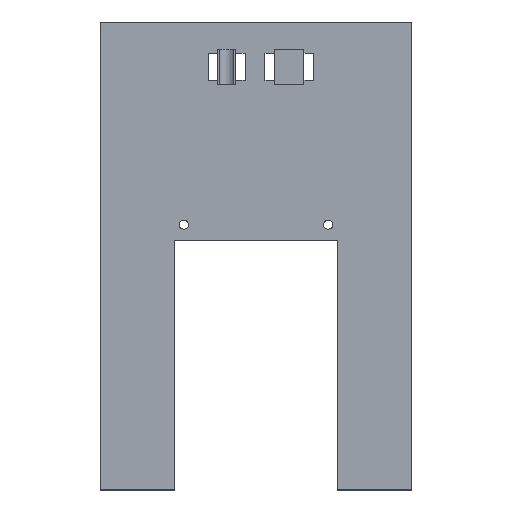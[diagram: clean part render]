
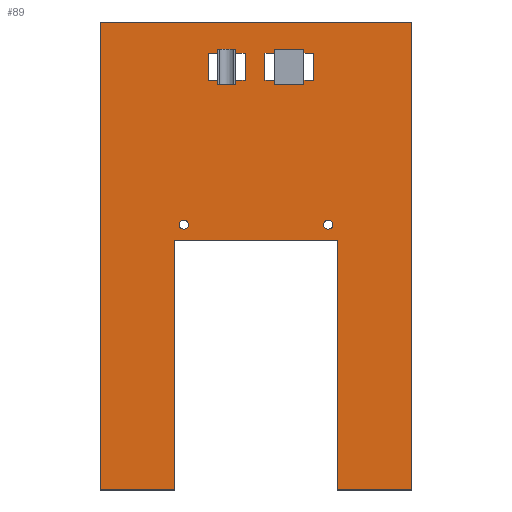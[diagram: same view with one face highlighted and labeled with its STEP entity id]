
A CAD part, top view. The second image highlights one B-rep face of the part: STEP entity #89.
In plain terms, the highlighted planar face has unit normal (0, 0, 1).
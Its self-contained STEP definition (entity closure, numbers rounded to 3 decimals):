
#21 = EDGE_CURVE('',#22,#24,#26,.T.);
#22 = VERTEX_POINT('',#23);
#23 = CARTESIAN_POINT('',(0.,0.,3.));
#24 = VERTEX_POINT('',#25);
#25 = CARTESIAN_POINT('',(0.,120.,3.));
#26 = LINE('',#27,#28);
#27 = CARTESIAN_POINT('',(0.,0.,3.));
#28 = VECTOR('',#29,1.);
#29 = DIRECTION('',(-0.,1.,0.));
#89 = ADVANCED_FACE('',(#90,#147,#158,#169,#267),#365,.T.);
#90 = FACE_BOUND('',#91,.T.);
#91 = EDGE_LOOP('',(#92,#100,#101,#109,#117,#125,#133,#141));
#92 = ORIENTED_EDGE('',*,*,#93,.F.);
#93 = EDGE_CURVE('',#24,#94,#96,.T.);
#94 = VERTEX_POINT('',#95);
#95 = CARTESIAN_POINT('',(80.,120.,3.));
#96 = LINE('',#97,#98);
#97 = CARTESIAN_POINT('',(0.,120.,3.));
#98 = VECTOR('',#99,1.);
#99 = DIRECTION('',(1.,0.,-0.));
#100 = ORIENTED_EDGE('',*,*,#21,.F.);
#101 = ORIENTED_EDGE('',*,*,#102,.T.);
#102 = EDGE_CURVE('',#22,#103,#105,.T.);
#103 = VERTEX_POINT('',#104);
#104 = CARTESIAN_POINT('',(19.,0.,3.));
#105 = LINE('',#106,#107);
#106 = CARTESIAN_POINT('',(0.,0.,3.));
#107 = VECTOR('',#108,1.);
#108 = DIRECTION('',(1.,0.,-0.));
#109 = ORIENTED_EDGE('',*,*,#110,.T.);
#110 = EDGE_CURVE('',#103,#111,#113,.T.);
#111 = VERTEX_POINT('',#112);
#112 = CARTESIAN_POINT('',(19.,64.,3.));
#113 = LINE('',#114,#115);
#114 = CARTESIAN_POINT('',(19.,0.,3.));
#115 = VECTOR('',#116,1.);
#116 = DIRECTION('',(-0.,1.,0.));
#117 = ORIENTED_EDGE('',*,*,#118,.F.);
#118 = EDGE_CURVE('',#119,#111,#121,.T.);
#119 = VERTEX_POINT('',#120);
#120 = CARTESIAN_POINT('',(61.,64.,3.));
#121 = LINE('',#122,#123);
#122 = CARTESIAN_POINT('',(9.5,64.,3.));
#123 = VECTOR('',#124,1.);
#124 = DIRECTION('',(-1.,-0.,0.));
#125 = ORIENTED_EDGE('',*,*,#126,.F.);
#126 = EDGE_CURVE('',#127,#119,#129,.T.);
#127 = VERTEX_POINT('',#128);
#128 = CARTESIAN_POINT('',(61.,0.,3.));
#129 = LINE('',#130,#131);
#130 = CARTESIAN_POINT('',(61.,0.,3.));
#131 = VECTOR('',#132,1.);
#132 = DIRECTION('',(-0.,1.,0.));
#133 = ORIENTED_EDGE('',*,*,#134,.T.);
#134 = EDGE_CURVE('',#127,#135,#137,.T.);
#135 = VERTEX_POINT('',#136);
#136 = CARTESIAN_POINT('',(80.,0.,3.));
#137 = LINE('',#138,#139);
#138 = CARTESIAN_POINT('',(0.,0.,3.));
#139 = VECTOR('',#140,1.);
#140 = DIRECTION('',(1.,0.,-0.));
#141 = ORIENTED_EDGE('',*,*,#142,.T.);
#142 = EDGE_CURVE('',#135,#94,#143,.T.);
#143 = LINE('',#144,#145);
#144 = CARTESIAN_POINT('',(80.,0.,3.));
#145 = VECTOR('',#146,1.);
#146 = DIRECTION('',(-0.,1.,0.));
#147 = FACE_BOUND('',#148,.T.);
#148 = EDGE_LOOP('',(#149));
#149 = ORIENTED_EDGE('',*,*,#150,.F.);
#150 = EDGE_CURVE('',#151,#151,#153,.T.);
#151 = VERTEX_POINT('',#152);
#152 = CARTESIAN_POINT('',(22.65,68.,3.));
#153 = CIRCLE('',#154,1.15);
#154 = AXIS2_PLACEMENT_3D('',#155,#156,#157);
#155 = CARTESIAN_POINT('',(21.5,68.,3.));
#156 = DIRECTION('',(0.,0.,1.));
#157 = DIRECTION('',(1.,0.,-0.));
#158 = FACE_BOUND('',#159,.T.);
#159 = EDGE_LOOP('',(#160));
#160 = ORIENTED_EDGE('',*,*,#161,.F.);
#161 = EDGE_CURVE('',#162,#162,#164,.T.);
#162 = VERTEX_POINT('',#163);
#163 = CARTESIAN_POINT('',(59.65,68.,3.));
#164 = CIRCLE('',#165,1.15);
#165 = AXIS2_PLACEMENT_3D('',#166,#167,#168);
#166 = CARTESIAN_POINT('',(58.5,68.,3.));
#167 = DIRECTION('',(0.,0.,1.));
#168 = DIRECTION('',(1.,0.,-0.));
#169 = FACE_BOUND('',#170,.T.);
#170 = EDGE_LOOP('',(#171,#181,#189,#197,#205,#213,#221,#229,#237,#245,
    #253,#261));
#171 = ORIENTED_EDGE('',*,*,#172,.T.);
#172 = EDGE_CURVE('',#173,#175,#177,.T.);
#173 = VERTEX_POINT('',#174);
#174 = CARTESIAN_POINT('',(30.2,104.,3.));
#175 = VERTEX_POINT('',#176);
#176 = CARTESIAN_POINT('',(30.2,105.,3.));
#177 = LINE('',#178,#179);
#178 = CARTESIAN_POINT('',(30.2,104.,3.));
#179 = VECTOR('',#180,1.);
#180 = DIRECTION('',(-0.,1.,0.));
#181 = ORIENTED_EDGE('',*,*,#182,.T.);
#182 = EDGE_CURVE('',#175,#183,#185,.T.);
#183 = VERTEX_POINT('',#184);
#184 = CARTESIAN_POINT('',(27.8,105.,3.));
#185 = LINE('',#186,#187);
#186 = CARTESIAN_POINT('',(13.9,105.,3.));
#187 = VECTOR('',#188,1.);
#188 = DIRECTION('',(-1.,-0.,0.));
#189 = ORIENTED_EDGE('',*,*,#190,.T.);
#190 = EDGE_CURVE('',#183,#191,#193,.T.);
#191 = VERTEX_POINT('',#192);
#192 = CARTESIAN_POINT('',(27.8,112.,3.));
#193 = LINE('',#194,#195);
#194 = CARTESIAN_POINT('',(27.8,52.5,3.));
#195 = VECTOR('',#196,1.);
#196 = DIRECTION('',(-0.,1.,0.));
#197 = ORIENTED_EDGE('',*,*,#198,.F.);
#198 = EDGE_CURVE('',#199,#191,#201,.T.);
#199 = VERTEX_POINT('',#200);
#200 = CARTESIAN_POINT('',(30.2,112.,3.));
#201 = LINE('',#202,#203);
#202 = CARTESIAN_POINT('',(13.9,112.,3.));
#203 = VECTOR('',#204,1.);
#204 = DIRECTION('',(-1.,-0.,0.));
#205 = ORIENTED_EDGE('',*,*,#206,.T.);
#206 = EDGE_CURVE('',#199,#207,#209,.T.);
#207 = VERTEX_POINT('',#208);
#208 = CARTESIAN_POINT('',(30.2,113.,3.));
#209 = LINE('',#210,#211);
#210 = CARTESIAN_POINT('',(30.2,104.,3.));
#211 = VECTOR('',#212,1.);
#212 = DIRECTION('',(-0.,1.,0.));
#213 = ORIENTED_EDGE('',*,*,#214,.T.);
#214 = EDGE_CURVE('',#207,#215,#217,.T.);
#215 = VERTEX_POINT('',#216);
#216 = CARTESIAN_POINT('',(34.8,113.,3.));
#217 = LINE('',#218,#219);
#218 = CARTESIAN_POINT('',(30.2,113.,3.));
#219 = VECTOR('',#220,1.);
#220 = DIRECTION('',(1.,0.,-0.));
#221 = ORIENTED_EDGE('',*,*,#222,.F.);
#222 = EDGE_CURVE('',#223,#215,#225,.T.);
#223 = VERTEX_POINT('',#224);
#224 = CARTESIAN_POINT('',(34.8,112.,3.));
#225 = LINE('',#226,#227);
#226 = CARTESIAN_POINT('',(34.8,104.,3.));
#227 = VECTOR('',#228,1.);
#228 = DIRECTION('',(-0.,1.,0.));
#229 = ORIENTED_EDGE('',*,*,#230,.F.);
#230 = EDGE_CURVE('',#231,#223,#233,.T.);
#231 = VERTEX_POINT('',#232);
#232 = CARTESIAN_POINT('',(37.2,112.,3.));
#233 = LINE('',#234,#235);
#234 = CARTESIAN_POINT('',(17.4,112.,3.));
#235 = VECTOR('',#236,1.);
#236 = DIRECTION('',(-1.,-0.,0.));
#237 = ORIENTED_EDGE('',*,*,#238,.F.);
#238 = EDGE_CURVE('',#239,#231,#241,.T.);
#239 = VERTEX_POINT('',#240);
#240 = CARTESIAN_POINT('',(37.2,105.,3.));
#241 = LINE('',#242,#243);
#242 = CARTESIAN_POINT('',(37.2,52.5,3.));
#243 = VECTOR('',#244,1.);
#244 = DIRECTION('',(-0.,1.,0.));
#245 = ORIENTED_EDGE('',*,*,#246,.T.);
#246 = EDGE_CURVE('',#239,#247,#249,.T.);
#247 = VERTEX_POINT('',#248);
#248 = CARTESIAN_POINT('',(34.8,105.,3.));
#249 = LINE('',#250,#251);
#250 = CARTESIAN_POINT('',(17.4,105.,3.));
#251 = VECTOR('',#252,1.);
#252 = DIRECTION('',(-1.,-0.,0.));
#253 = ORIENTED_EDGE('',*,*,#254,.F.);
#254 = EDGE_CURVE('',#255,#247,#257,.T.);
#255 = VERTEX_POINT('',#256);
#256 = CARTESIAN_POINT('',(34.8,104.,3.));
#257 = LINE('',#258,#259);
#258 = CARTESIAN_POINT('',(34.8,104.,3.));
#259 = VECTOR('',#260,1.);
#260 = DIRECTION('',(-0.,1.,0.));
#261 = ORIENTED_EDGE('',*,*,#262,.F.);
#262 = EDGE_CURVE('',#173,#255,#263,.T.);
#263 = LINE('',#264,#265);
#264 = CARTESIAN_POINT('',(30.2,104.,3.));
#265 = VECTOR('',#266,1.);
#266 = DIRECTION('',(1.,0.,-0.));
#267 = FACE_BOUND('',#268,.T.);
#268 = EDGE_LOOP('',(#269,#279,#287,#295,#303,#311,#319,#327,#335,#343,
    #351,#359));
#269 = ORIENTED_EDGE('',*,*,#270,.T.);
#270 = EDGE_CURVE('',#271,#273,#275,.T.);
#271 = VERTEX_POINT('',#272);
#272 = CARTESIAN_POINT('',(44.7,104.,3.));
#273 = VERTEX_POINT('',#274);
#274 = CARTESIAN_POINT('',(44.7,105.,3.));
#275 = LINE('',#276,#277);
#276 = CARTESIAN_POINT('',(44.7,104.,3.));
#277 = VECTOR('',#278,1.);
#278 = DIRECTION('',(-0.,1.,0.));
#279 = ORIENTED_EDGE('',*,*,#280,.T.);
#280 = EDGE_CURVE('',#273,#281,#283,.T.);
#281 = VERTEX_POINT('',#282);
#282 = CARTESIAN_POINT('',(42.3,105.,3.));
#283 = LINE('',#284,#285);
#284 = CARTESIAN_POINT('',(21.15,105.,3.));
#285 = VECTOR('',#286,1.);
#286 = DIRECTION('',(-1.,-0.,0.));
#287 = ORIENTED_EDGE('',*,*,#288,.T.);
#288 = EDGE_CURVE('',#281,#289,#291,.T.);
#289 = VERTEX_POINT('',#290);
#290 = CARTESIAN_POINT('',(42.3,112.,3.));
#291 = LINE('',#292,#293);
#292 = CARTESIAN_POINT('',(42.3,52.5,3.));
#293 = VECTOR('',#294,1.);
#294 = DIRECTION('',(-0.,1.,0.));
#295 = ORIENTED_EDGE('',*,*,#296,.F.);
#296 = EDGE_CURVE('',#297,#289,#299,.T.);
#297 = VERTEX_POINT('',#298);
#298 = CARTESIAN_POINT('',(44.7,112.,3.));
#299 = LINE('',#300,#301);
#300 = CARTESIAN_POINT('',(21.15,112.,3.));
#301 = VECTOR('',#302,1.);
#302 = DIRECTION('',(-1.,-0.,0.));
#303 = ORIENTED_EDGE('',*,*,#304,.T.);
#304 = EDGE_CURVE('',#297,#305,#307,.T.);
#305 = VERTEX_POINT('',#306);
#306 = CARTESIAN_POINT('',(44.7,113.,3.));
#307 = LINE('',#308,#309);
#308 = CARTESIAN_POINT('',(44.7,104.,3.));
#309 = VECTOR('',#310,1.);
#310 = DIRECTION('',(-0.,1.,0.));
#311 = ORIENTED_EDGE('',*,*,#312,.T.);
#312 = EDGE_CURVE('',#305,#313,#315,.T.);
#313 = VERTEX_POINT('',#314);
#314 = CARTESIAN_POINT('',(52.3,113.,3.));
#315 = LINE('',#316,#317);
#316 = CARTESIAN_POINT('',(44.7,113.,3.));
#317 = VECTOR('',#318,1.);
#318 = DIRECTION('',(1.,0.,-0.));
#319 = ORIENTED_EDGE('',*,*,#320,.F.);
#320 = EDGE_CURVE('',#321,#313,#323,.T.);
#321 = VERTEX_POINT('',#322);
#322 = CARTESIAN_POINT('',(52.3,112.,3.));
#323 = LINE('',#324,#325);
#324 = CARTESIAN_POINT('',(52.3,104.,3.));
#325 = VECTOR('',#326,1.);
#326 = DIRECTION('',(-0.,1.,0.));
#327 = ORIENTED_EDGE('',*,*,#328,.F.);
#328 = EDGE_CURVE('',#329,#321,#331,.T.);
#329 = VERTEX_POINT('',#330);
#330 = CARTESIAN_POINT('',(54.7,112.,3.));
#331 = LINE('',#332,#333);
#332 = CARTESIAN_POINT('',(26.15,112.,3.));
#333 = VECTOR('',#334,1.);
#334 = DIRECTION('',(-1.,-0.,0.));
#335 = ORIENTED_EDGE('',*,*,#336,.F.);
#336 = EDGE_CURVE('',#337,#329,#339,.T.);
#337 = VERTEX_POINT('',#338);
#338 = CARTESIAN_POINT('',(54.7,105.,3.));
#339 = LINE('',#340,#341);
#340 = CARTESIAN_POINT('',(54.7,52.5,3.));
#341 = VECTOR('',#342,1.);
#342 = DIRECTION('',(-0.,1.,0.));
#343 = ORIENTED_EDGE('',*,*,#344,.T.);
#344 = EDGE_CURVE('',#337,#345,#347,.T.);
#345 = VERTEX_POINT('',#346);
#346 = CARTESIAN_POINT('',(52.3,105.,3.));
#347 = LINE('',#348,#349);
#348 = CARTESIAN_POINT('',(26.15,105.,3.));
#349 = VECTOR('',#350,1.);
#350 = DIRECTION('',(-1.,-0.,0.));
#351 = ORIENTED_EDGE('',*,*,#352,.F.);
#352 = EDGE_CURVE('',#353,#345,#355,.T.);
#353 = VERTEX_POINT('',#354);
#354 = CARTESIAN_POINT('',(52.3,104.,3.));
#355 = LINE('',#356,#357);
#356 = CARTESIAN_POINT('',(52.3,104.,3.));
#357 = VECTOR('',#358,1.);
#358 = DIRECTION('',(-0.,1.,0.));
#359 = ORIENTED_EDGE('',*,*,#360,.F.);
#360 = EDGE_CURVE('',#271,#353,#361,.T.);
#361 = LINE('',#362,#363);
#362 = CARTESIAN_POINT('',(44.7,104.,3.));
#363 = VECTOR('',#364,1.);
#364 = DIRECTION('',(1.,0.,-0.));
#365 = PLANE('',#366);
#366 = AXIS2_PLACEMENT_3D('',#367,#368,#369);
#367 = CARTESIAN_POINT('',(0.,0.,3.));
#368 = DIRECTION('',(0.,0.,1.));
#369 = DIRECTION('',(1.,0.,-0.));
